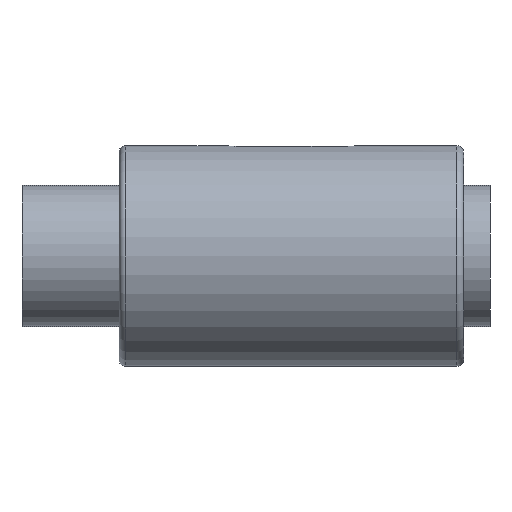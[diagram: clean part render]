
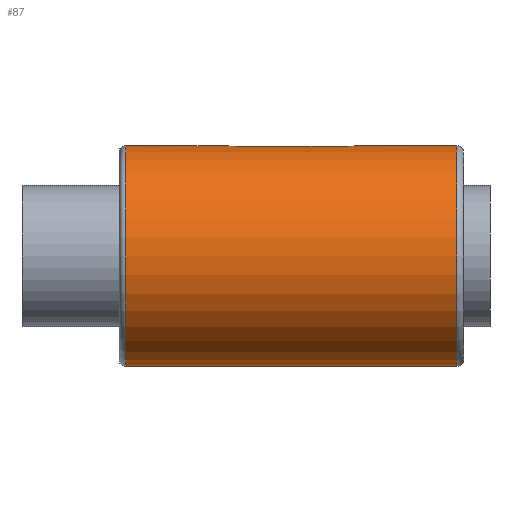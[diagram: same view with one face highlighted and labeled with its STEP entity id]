
A CAD part, left-side view. The second image highlights one B-rep face of the part: STEP entity #87.
In plain terms, the highlighted cylindrical face has radius 25 mm (diameter 50 mm), a full revolution.
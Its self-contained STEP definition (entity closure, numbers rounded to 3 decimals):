
#29=LINE('',#484,#37);
#30=LINE('',#518,#38);
#37=VECTOR('',#365,1.);
#38=VECTOR('',#366,1.);
#45=B_SPLINE_CURVE_WITH_KNOTS('',3,(#451,#452,#453,#454,#455,#456,#457,#458,
#459,#460,#461,#462,#463,#464,#465,#466,#467,#468,#469,#470,#471,#472,#473,
#474,#475,#476,#477,#478,#479,#480,#481),.UNSPECIFIED.,.F.,.F.,(4,3,3,3,
3,3,3,3,3,3,4),(0.,0.107,0.214,0.321,
0.429,0.536,0.643,0.749,0.857,
0.965,1.),.UNSPECIFIED.);
#46=B_SPLINE_CURVE_WITH_KNOTS('',3,(#486,#487,#488,#489,#490,#491,#492,#493,
#494,#495,#496,#497,#498,#499,#500,#501,#502,#503,#504,#505,#506,#507,#508,
#509,#510,#511,#512,#513,#514,#515,#516),.UNSPECIFIED.,.F.,.F.,(4,3,3,3,
3,3,3,3,3,3,4),(0.,0.107,0.214,0.321,
0.429,0.536,0.643,0.749,
0.857,0.965,1.),.UNSPECIFIED.);
#87=ADVANCED_FACE('',(#115,#116,#117),#107,.T.);
#107=CYLINDRICAL_SURFACE('',#316,25.);
#115=FACE_BOUND('',#148,.T.);
#116=FACE_BOUND('',#149,.T.);
#117=FACE_BOUND('',#150,.T.);
#148=EDGE_LOOP('',(#186));
#149=EDGE_LOOP('',(#187));
#150=EDGE_LOOP('',(#188,#189,#190,#191));
#186=ORIENTED_EDGE('',*,*,#264,.T.);
#187=ORIENTED_EDGE('',*,*,#265,.T.);
#188=ORIENTED_EDGE('',*,*,#266,.F.);
#189=ORIENTED_EDGE('',*,*,#267,.F.);
#190=ORIENTED_EDGE('',*,*,#268,.F.);
#191=ORIENTED_EDGE('',*,*,#269,.F.);
#240=VERTEX_POINT('',#448);
#241=VERTEX_POINT('',#450);
#242=VERTEX_POINT('',#482);
#243=VERTEX_POINT('',#483);
#244=VERTEX_POINT('',#485);
#245=VERTEX_POINT('',#517);
#264=EDGE_CURVE('',#240,#240,#292,.T.);
#265=EDGE_CURVE('',#241,#241,#293,.T.);
#266=EDGE_CURVE('',#242,#243,#45,.T.);
#267=EDGE_CURVE('',#244,#242,#29,.T.);
#268=EDGE_CURVE('',#245,#244,#46,.T.);
#269=EDGE_CURVE('',#243,#245,#30,.T.);
#292=CIRCLE('',#314,25.);
#293=CIRCLE('',#315,25.);
#314=AXIS2_PLACEMENT_3D('',#447,#361,#362);
#315=AXIS2_PLACEMENT_3D('',#449,#363,#364);
#316=AXIS2_PLACEMENT_3D('',#519,#367,#368);
#361=DIRECTION('',(0.,-1.,0.));
#362=DIRECTION('',(0.,0.,-1.));
#363=DIRECTION('',(0.,1.,0.));
#364=DIRECTION('',(0.,0.,-1.));
#365=DIRECTION('',(0.,1.,0.));
#366=DIRECTION('',(0.,-1.,0.));
#367=DIRECTION('',(0.,1.,0.));
#368=DIRECTION('',(0.,0.,1.));
#447=CARTESIAN_POINT('',(0.,76.5,0.));
#448=CARTESIAN_POINT('',(0.,76.5,-25.));
#449=CARTESIAN_POINT('',(0.,1.5,0.));
#450=CARTESIAN_POINT('',(0.,1.5,-25.));
#451=CARTESIAN_POINT('',(3.,51.,24.819));
#452=CARTESIAN_POINT('',(3.,51.334,24.819));
#453=CARTESIAN_POINT('',(2.942,51.673,24.826));
#454=CARTESIAN_POINT('',(2.832,51.989,24.839));
#455=CARTESIAN_POINT('',(2.722,52.304,24.852));
#456=CARTESIAN_POINT('',(2.556,52.605,24.87));
#457=CARTESIAN_POINT('',(2.349,52.866,24.889));
#458=CARTESIAN_POINT('',(2.14,53.129,24.909));
#459=CARTESIAN_POINT('',(1.884,53.359,24.931));
#460=CARTESIAN_POINT('',(1.6,53.538,24.949));
#461=CARTESIAN_POINT('',(1.315,53.717,24.967));
#462=CARTESIAN_POINT('',(0.995,53.85,24.982));
#463=CARTESIAN_POINT('',(0.667,53.925,24.991));
#464=CARTESIAN_POINT('',(0.34,53.999,25.));
#465=CARTESIAN_POINT('',(-0.004,54.019,25.002));
#466=CARTESIAN_POINT('',(-0.337,53.981,24.998));
#467=CARTESIAN_POINT('',(-0.668,53.944,24.993));
#468=CARTESIAN_POINT('',(-0.998,53.849,24.982));
#469=CARTESIAN_POINT('',(-1.298,53.705,24.966));
#470=CARTESIAN_POINT('',(-1.599,53.56,24.951));
#471=CARTESIAN_POINT('',(-1.88,53.362,24.93));
#472=CARTESIAN_POINT('',(-2.116,53.127,24.91));
#473=CARTESIAN_POINT('',(-2.354,52.89,24.89));
#474=CARTESIAN_POINT('',(-2.555,52.608,24.87));
#475=CARTESIAN_POINT('',(-2.701,52.306,24.854));
#476=CARTESIAN_POINT('',(-2.847,52.003,24.838));
#477=CARTESIAN_POINT('',(-2.943,51.671,24.826));
#478=CARTESIAN_POINT('',(-2.981,51.336,24.822));
#479=CARTESIAN_POINT('',(-2.994,51.225,24.82));
#480=CARTESIAN_POINT('',(-3.,51.112,24.819));
#481=CARTESIAN_POINT('',(-3.,51.,24.819));
#482=CARTESIAN_POINT('',(3.,51.,24.819));
#483=CARTESIAN_POINT('',(-3.,51.,24.819));
#484=CARTESIAN_POINT('',(3.,0.,24.819));
#485=CARTESIAN_POINT('',(3.,27.,24.819));
#486=CARTESIAN_POINT('',(-3.,27.,24.819));
#487=CARTESIAN_POINT('',(-3.,26.666,24.819));
#488=CARTESIAN_POINT('',(-2.942,26.327,24.826));
#489=CARTESIAN_POINT('',(-2.832,26.011,24.839));
#490=CARTESIAN_POINT('',(-2.722,25.696,24.852));
#491=CARTESIAN_POINT('',(-2.556,25.395,24.87));
#492=CARTESIAN_POINT('',(-2.349,25.134,24.889));
#493=CARTESIAN_POINT('',(-2.14,24.871,24.909));
#494=CARTESIAN_POINT('',(-1.884,24.641,24.931));
#495=CARTESIAN_POINT('',(-1.6,24.462,24.949));
#496=CARTESIAN_POINT('',(-1.315,24.283,24.967));
#497=CARTESIAN_POINT('',(-0.995,24.15,24.982));
#498=CARTESIAN_POINT('',(-0.667,24.075,24.991));
#499=CARTESIAN_POINT('',(-0.34,24.001,25.));
#500=CARTESIAN_POINT('',(0.004,23.981,25.002));
#501=CARTESIAN_POINT('',(0.337,24.019,24.998));
#502=CARTESIAN_POINT('',(0.668,24.056,24.993));
#503=CARTESIAN_POINT('',(0.998,24.151,24.982));
#504=CARTESIAN_POINT('',(1.298,24.295,24.966));
#505=CARTESIAN_POINT('',(1.599,24.44,24.951));
#506=CARTESIAN_POINT('',(1.88,24.638,24.93));
#507=CARTESIAN_POINT('',(2.116,24.873,24.91));
#508=CARTESIAN_POINT('',(2.354,25.11,24.89));
#509=CARTESIAN_POINT('',(2.555,25.392,24.87));
#510=CARTESIAN_POINT('',(2.701,25.694,24.854));
#511=CARTESIAN_POINT('',(2.847,25.997,24.838));
#512=CARTESIAN_POINT('',(2.943,26.329,24.826));
#513=CARTESIAN_POINT('',(2.981,26.664,24.822));
#514=CARTESIAN_POINT('',(2.994,26.775,24.82));
#515=CARTESIAN_POINT('',(3.,26.888,24.819));
#516=CARTESIAN_POINT('',(3.,27.,24.819));
#517=CARTESIAN_POINT('',(-3.,27.,24.819));
#518=CARTESIAN_POINT('',(-3.,0.,24.819));
#519=CARTESIAN_POINT('',(0.,0.,0.));
